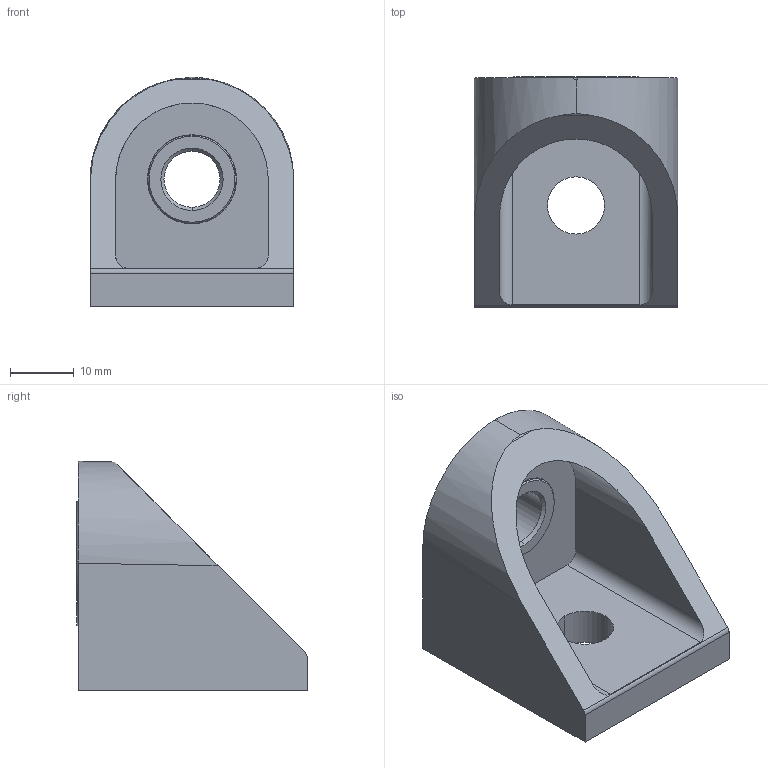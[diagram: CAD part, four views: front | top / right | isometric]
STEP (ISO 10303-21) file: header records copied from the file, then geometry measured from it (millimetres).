
FILE_DESCRIPTION (( 'STEP AP203' ), '1' );
FILE_NAME ('0108GW.STEP', '2024-03-14T13:05:13', ( 'Windows-Benutzer' ), ( '' ), 'SwSTEP 2.0', 'SolidWorks 2023', '' );
FILE_SCHEMA (( 'CONFIG_CONTROL_DESIGN' ));
Length unit declared in the file: millimetre
Products named in the file (1): 0108GW
Bounding box: 32 x 36.2 x 36 mm (x, y, z)
Volume: 15051 mm3; surface area: 7795.4 mm2
Topology: 2 solids, 2 shells, 44 faces, 105 edges, 68 vertices
Faces by surface type: cylinder 19, plane 15, cone 10
Entity records: 1379 total; most frequent: CARTESIAN_POINT 255, DIRECTION 227, ORIENTED_EDGE 210, EDGE_CURVE 105, AXIS2_PLACEMENT_3D 88, VERTEX_POINT 68, EDGE_LOOP 53, LINE 51
